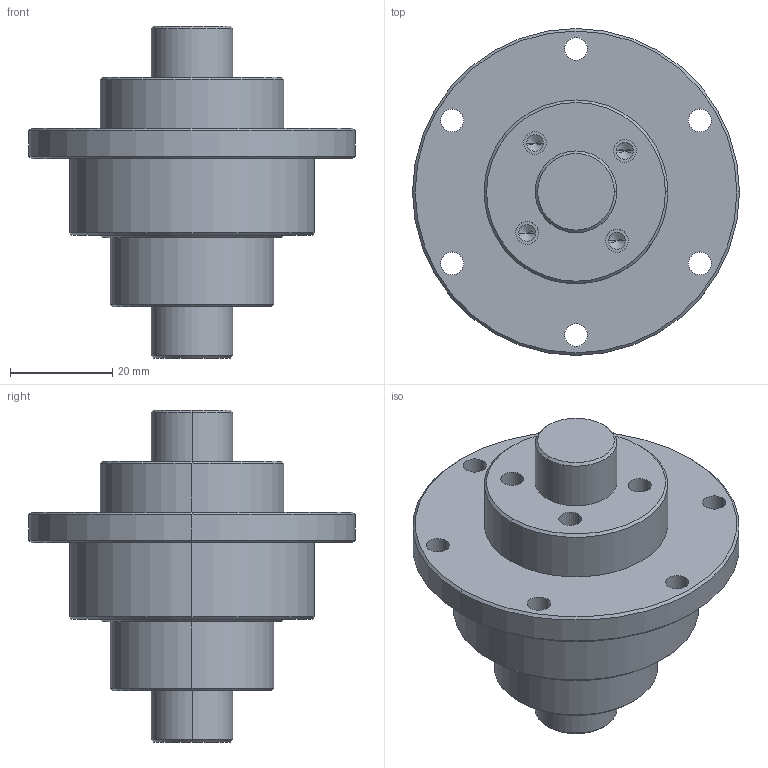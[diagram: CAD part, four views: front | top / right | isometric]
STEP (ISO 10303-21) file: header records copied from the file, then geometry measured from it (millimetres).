
FILE_DESCRIPTION (( 'STEP AP203' ), '1' );
FILE_NAME ('RFSY1616.STEP', '2014-11-13T05:13:17', ( '' ), ( '' ), 'SwSTEP 2.0', 'SolidWorks 2014', '' );
FILE_SCHEMA (( 'CONFIG_CONTROL_DESIGN' ));
Length unit declared in the file: millimetre
Products named in the file (1): RFSY1616
Bounding box: 64 x 64 x 65 mm (x, y, z)
Volume: 70775 mm3; surface area: 18521.6 mm2
Topology: 2 solids, 2 shells, 76 faces, 170 edges, 102 vertices
Faces by surface type: cylinder 40, cone 24, plane 12
Entity records: 2183 total; most frequent: DIRECTION 414, CARTESIAN_POINT 341, ORIENTED_EDGE 324, AXIS2_PLACEMENT_3D 175, EDGE_CURVE 162, EDGE_LOOP 102, VERTEX_POINT 102, CIRCLE 98
